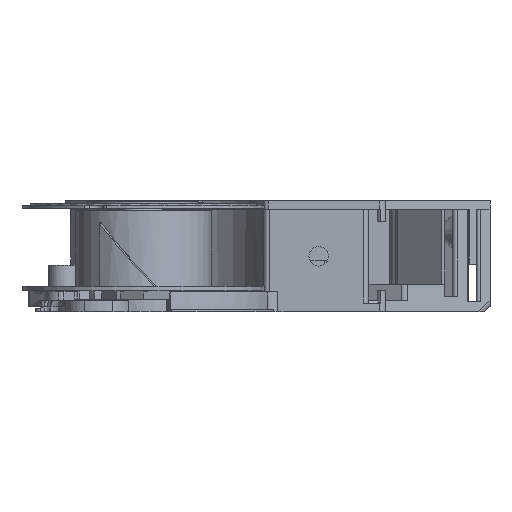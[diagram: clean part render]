
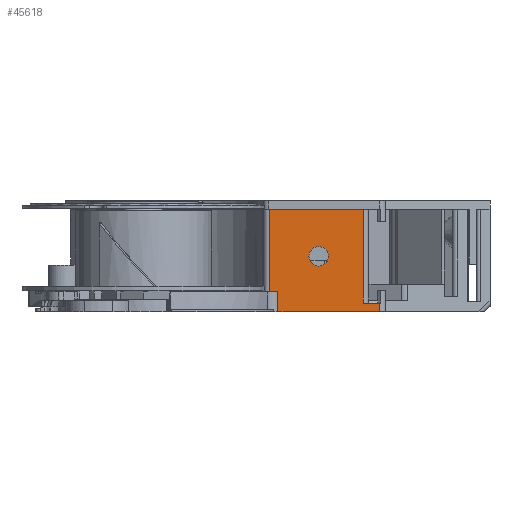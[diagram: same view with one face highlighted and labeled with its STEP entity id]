
A CAD part, left-side view. The second image highlights one B-rep face of the part: STEP entity #45618.
In plain terms, the highlighted planar face has unit normal (-1, 0, 0).
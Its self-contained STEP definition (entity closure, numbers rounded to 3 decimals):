
#1452 = CARTESIAN_POINT ( 'NONE',  ( -90.652, -9.5, 1.6 ) ) ;
#2005 = DIRECTION ( 'NONE',  ( -1., 0., 0. ) ) ;
#2322 = VERTEX_POINT ( 'NONE', #48150 ) ;
#3604 = DIRECTION ( 'NONE',  ( 0., 0., 1. ) ) ;
#4316 = EDGE_CURVE ( 'NONE', #39901, #52552, #58163, .T. ) ;
#6483 = CARTESIAN_POINT ( 'NONE',  ( -90.652, 31.571, 3.6 ) ) ;
#11435 = ORIENTED_EDGE ( 'NONE', *, *, #34938, .F. ) ;
#12074 = EDGE_CURVE ( 'NONE', #54626, #13382, #42131, .T. ) ;
#13203 = LINE ( 'NONE', #36210, #56904 ) ;
#13382 = VERTEX_POINT ( 'NONE', #43268 ) ;
#15869 = DIRECTION ( 'NONE',  ( 0., 0., -1. ) ) ;
#16018 = CARTESIAN_POINT ( 'NONE',  ( -90.652, 7.4, 3.6 ) ) ;
#17609 = VERTEX_POINT ( 'NONE', #59816 ) ;
#18449 = VECTOR ( 'NONE', #52511, 1000. ) ;
#19298 = EDGE_CURVE ( 'NONE', #13382, #17609, #21213, .T. ) ;
#19630 = DIRECTION ( 'NONE',  ( 0., 1., 0. ) ) ;
#19736 = DIRECTION ( 'NONE',  ( 0., 0., 1. ) ) ;
#21213 = LINE ( 'NONE', #21957, #36729 ) ;
#21957 = CARTESIAN_POINT ( 'NONE',  ( -90.652, 0., 18.4 ) ) ;
#22182 = CARTESIAN_POINT ( 'NONE',  ( -90.652, 5.801, 0. ) ) ;
#22773 = ORIENTED_EDGE ( 'NONE', *, *, #41029, .F. ) ;
#23218 = EDGE_CURVE ( 'NONE', #17609, #52552, #27165, .T. ) ;
#24022 = CARTESIAN_POINT ( 'NONE',  ( -90.652, -9.5, 18.4 ) ) ;
#24256 = LINE ( 'NONE', #57460, #38657 ) ;
#24257 = FACE_OUTER_BOUND ( 'NONE', #63196, .T. ) ;
#25208 = ORIENTED_EDGE ( 'NONE', *, *, #56976, .T. ) ;
#26686 = CARTESIAN_POINT ( 'NONE',  ( -90.652, 5.801, 0. ) ) ;
#26883 = CARTESIAN_POINT ( 'NONE',  ( -90.652, -1.5, 11.75 ) ) ;
#27165 = LINE ( 'NONE', #67508, #52471 ) ;
#29273 = VECTOR ( 'NONE', #19630, 1000. ) ;
#29541 = FACE_BOUND ( 'NONE', #46312, .T. ) ;
#30547 = DIRECTION ( 'NONE',  ( 0., 0., 1. ) ) ;
#30748 = ORIENTED_EDGE ( 'NONE', *, *, #33746, .T. ) ;
#30839 = CIRCLE ( 'NONE', #62117, 1.75 ) ;
#31041 = PLANE ( 'NONE',  #44361 ) ;
#32769 = ORIENTED_EDGE ( 'NONE', *, *, #19298, .T. ) ;
#33138 = ORIENTED_EDGE ( 'NONE', *, *, #12074, .T. ) ;
#33414 = CARTESIAN_POINT ( 'NONE',  ( -90.652, -12.5, 1.6 ) ) ;
#33661 = CARTESIAN_POINT ( 'NONE',  ( -90.652, 5.801, 3.6 ) ) ;
#33746 = EDGE_CURVE ( 'NONE', #2322, #64966, #13203, .T. ) ;
#34938 = EDGE_CURVE ( 'NONE', #2322, #37710, #43385, .T. ) ;
#35102 = VECTOR ( 'NONE', #47018, 1000. ) ;
#36210 = CARTESIAN_POINT ( 'NONE',  ( -90.652, -12.5, 28.378 ) ) ;
#36729 = VECTOR ( 'NONE', #55914, 1000. ) ;
#37465 = ORIENTED_EDGE ( 'NONE', *, *, #59781, .T. ) ;
#37539 = ORIENTED_EDGE ( 'NONE', *, *, #23218, .T. ) ;
#37710 = VERTEX_POINT ( 'NONE', #26686 ) ;
#38298 = CARTESIAN_POINT ( 'NONE',  ( -90.652, -1.5, 10. ) ) ;
#38657 = VECTOR ( 'NONE', #69128, 1000. ) ;
#39901 = VERTEX_POINT ( 'NONE', #33661 ) ;
#41029 = EDGE_CURVE ( 'NONE', #66857, #66857, #30839, .T. ) ;
#42131 = LINE ( 'NONE', #24022, #35102 ) ;
#43146 = VECTOR ( 'NONE', #67804, 1000. ) ;
#43268 = CARTESIAN_POINT ( 'NONE',  ( -90.652, -9.5, 18.4 ) ) ;
#43385 = LINE ( 'NONE', #71271, #29273 ) ;
#44361 = AXIS2_PLACEMENT_3D ( 'NONE', #58575, #2005, #19736 ) ;
#45618 = ADVANCED_FACE ( 'NONE', ( #29541, #24257 ), #31041, .T. ) ;
#46312 = EDGE_LOOP ( 'NONE', ( #22773 ) ) ;
#47018 = DIRECTION ( 'NONE',  ( 0., 0., 1. ) ) ;
#48150 = CARTESIAN_POINT ( 'NONE',  ( -90.652, -12.5, 0. ) ) ;
#52471 = VECTOR ( 'NONE', #15869, 1000. ) ;
#52511 = DIRECTION ( 'NONE',  ( 0., 1., 0. ) ) ;
#52552 = VERTEX_POINT ( 'NONE', #16018 ) ;
#54626 = VERTEX_POINT ( 'NONE', #1452 ) ;
#55914 = DIRECTION ( 'NONE',  ( 0., 1., 0. ) ) ;
#56904 = VECTOR ( 'NONE', #30547, 1000. ) ;
#56976 = EDGE_CURVE ( 'NONE', #39901, #37710, #73821, .T. ) ;
#57460 = CARTESIAN_POINT ( 'NONE',  ( -90.652, -13.5, 1.6 ) ) ;
#58163 = LINE ( 'NONE', #6483, #18449 ) ;
#58575 = CARTESIAN_POINT ( 'NONE',  ( -90.652, 0., 28.378 ) ) ;
#59781 = EDGE_CURVE ( 'NONE', #64966, #54626, #24256, .T. ) ;
#59816 = CARTESIAN_POINT ( 'NONE',  ( -90.652, 7.4, 18.4 ) ) ;
#62117 = AXIS2_PLACEMENT_3D ( 'NONE', #38298, #66212, #3604 ) ;
#63196 = EDGE_LOOP ( 'NONE', ( #32769, #37539, #65863, #25208, #11435, #30748, #37465, #33138 ) ) ;
#64966 = VERTEX_POINT ( 'NONE', #33414 ) ;
#65863 = ORIENTED_EDGE ( 'NONE', *, *, #4316, .F. ) ;
#66212 = DIRECTION ( 'NONE',  ( -1., 0., 0. ) ) ;
#66857 = VERTEX_POINT ( 'NONE', #26883 ) ;
#67508 = CARTESIAN_POINT ( 'NONE',  ( -90.652, 7.4, 3.6 ) ) ;
#67804 = DIRECTION ( 'NONE',  ( 0., 0., -1. ) ) ;
#69128 = DIRECTION ( 'NONE',  ( 0., 1., 0. ) ) ;
#71271 = CARTESIAN_POINT ( 'NONE',  ( -90.652, 0., 0. ) ) ;
#73821 = LINE ( 'NONE', #22182, #43146 ) ;
